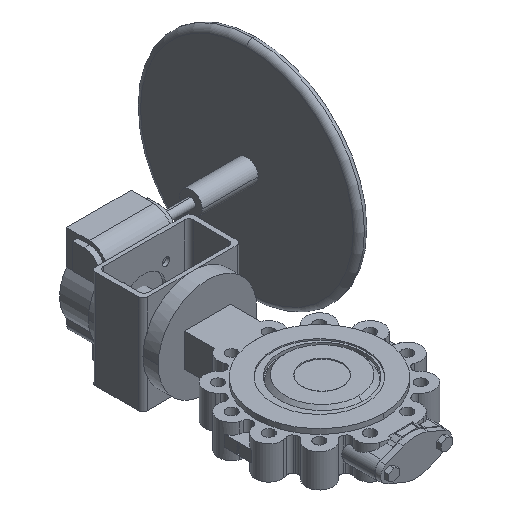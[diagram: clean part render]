
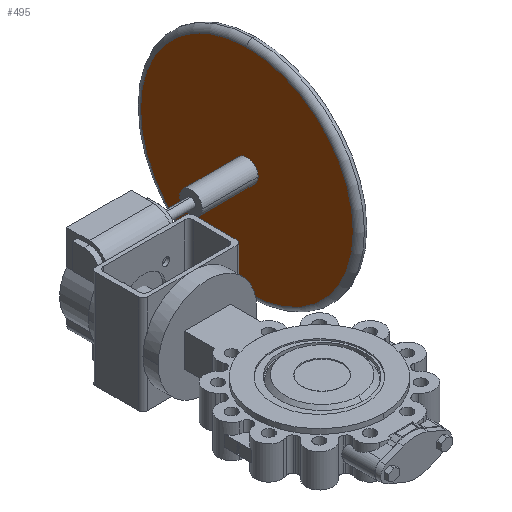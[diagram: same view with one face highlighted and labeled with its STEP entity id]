
A CAD part, isometric view. The second image highlights one B-rep face of the part: STEP entity #495.
In plain terms, the highlighted planar face has unit normal (-1, 0, 0).
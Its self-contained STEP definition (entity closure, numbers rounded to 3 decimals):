
#495 = ADVANCED_FACE( '', ( #1309, #1310 ), #1311, .T. );
#1309 = FACE_OUTER_BOUND( '', #2130, .T. );
#1310 = FACE_BOUND( '', #2131, .T. );
#1311 = PLANE( '', #2132 );
#2130 = EDGE_LOOP( '', ( #5277, #5278, #5279 ) );
#2131 = EDGE_LOOP( '', ( #5280, #5281 ) );
#2132 = AXIS2_PLACEMENT_3D( '', #5282, #5283, #5284 );
#5277 = ORIENTED_EDGE( '', *, *, #6194, .F. );
#5278 = ORIENTED_EDGE( '', *, *, #6193, .F. );
#5279 = ORIENTED_EDGE( '', *, *, #6190, .F. );
#5280 = ORIENTED_EDGE( '', *, *, #6206, .T. );
#5281 = ORIENTED_EDGE( '', *, *, #6347, .T. );
#5282 = CARTESIAN_POINT( '', ( 280., 573.25, 86. ) );
#5283 = DIRECTION( '', ( -1., 0., 0. ) );
#5284 = DIRECTION( '', ( 0., -1., 0. ) );
#6190 = EDGE_CURVE( '', #7782, #7784, #7785, .T. );
#6193 = EDGE_CURVE( '', #7784, #7788, #7789, .T. );
#6194 = EDGE_CURVE( '', #7788, #7782, #7790, .T. );
#6206 = EDGE_CURVE( '', #7807, #7811, #7813, .T. );
#6347 = EDGE_CURVE( '', #7811, #7807, #8047, .T. );
#7782 = VERTEX_POINT( '', #10817 );
#7784 = VERTEX_POINT( '', #10819 );
#7785 = CIRCLE( '', #10820, 237.5 );
#7788 = VERTEX_POINT( '', #10823 );
#7789 = CIRCLE( '', #10824, 237.5 );
#7790 = CIRCLE( '', #10825, 237.5 );
#7807 = VERTEX_POINT( '', #10844 );
#7811 = VERTEX_POINT( '', #10849 );
#7813 = CIRCLE( '', #10852, 25. );
#8047 = CIRCLE( '', #11221, 25. );
#10817 = CARTESIAN_POINT( '', ( 280., 442., 323.5 ) );
#10819 = CARTESIAN_POINT( '', ( 280., 442., -151.5 ) );
#10820 = AXIS2_PLACEMENT_3D( '', #12879, #12880, #12881 );
#10823 = CARTESIAN_POINT( '', ( 280., 679.5, 86. ) );
#10824 = AXIS2_PLACEMENT_3D( '', #12888, #12889, #12890 );
#10825 = AXIS2_PLACEMENT_3D( '', #12891, #12892, #12893 );
#10844 = CARTESIAN_POINT( '', ( 280., 467., 86. ) );
#10849 = CARTESIAN_POINT( '', ( 280., 417., 86. ) );
#10852 = AXIS2_PLACEMENT_3D( '', #12919, #12920, #12921 );
#11221 = AXIS2_PLACEMENT_3D( '', #13135, #13136, #13137 );
#12879 = CARTESIAN_POINT( '', ( 280., 442., 86. ) );
#12880 = DIRECTION( '', ( 1., 0., 0. ) );
#12881 = DIRECTION( '', ( 0., 1., 0. ) );
#12888 = CARTESIAN_POINT( '', ( 280., 442., 86. ) );
#12889 = DIRECTION( '', ( 1., 0., 0. ) );
#12890 = DIRECTION( '', ( 0., 1., 0. ) );
#12891 = CARTESIAN_POINT( '', ( 280., 442., 86. ) );
#12892 = DIRECTION( '', ( 1., 0., 0. ) );
#12893 = DIRECTION( '', ( 0., 1., 0. ) );
#12919 = CARTESIAN_POINT( '', ( 280., 442., 86. ) );
#12920 = DIRECTION( '', ( 1., 0., 0. ) );
#12921 = DIRECTION( '', ( 0., 1., 0. ) );
#13135 = CARTESIAN_POINT( '', ( 280., 442., 86. ) );
#13136 = DIRECTION( '', ( 1., 0., 0. ) );
#13137 = DIRECTION( '', ( 0., 1., 0. ) );
